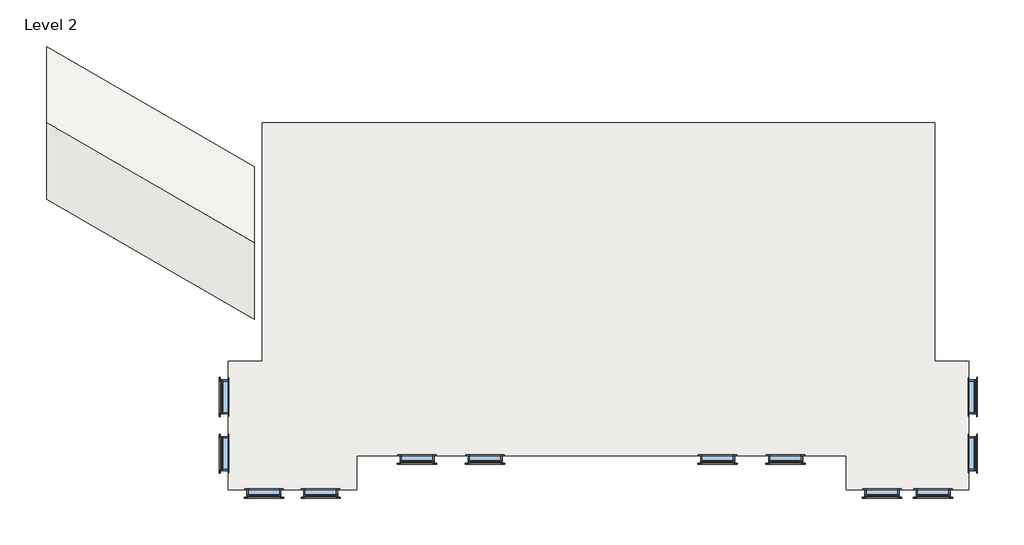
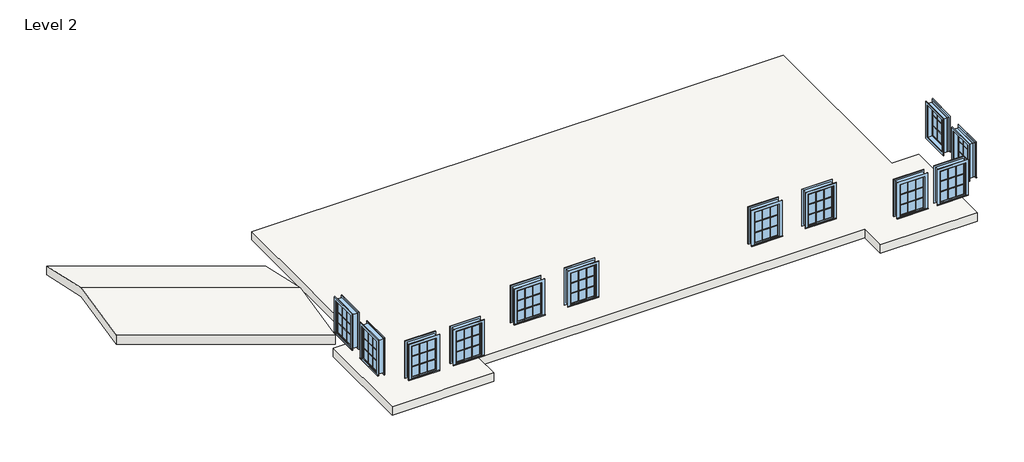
# One storey: 12 windows, 1 roof, 1 slab.
"""IFC4 building model written with IfcOpenShell, lengths in millimetres."""

import ifcopenshell
import ifcopenshell.guid

model = None  # the IFC model being written
_history = None  # IfcOwnerHistory: only IFC2X3 demands one
_inside = {}  # id of a spatial element -> (the spatial element, [elements in it])
_under = {}  # id of a project, library or spatial element -> (it, [spatial elements below it])
_declared = {}  # id of a project -> (the project, [libraries it declares])
_typed = {}  # id of a type object -> (the type object, [elements of that type])
_made_of = {}  # id of a material, layer set ... -> (it, [elements and type objects made of it])


def new_model(schema):
    """Start an empty IFC model of exactly this schema.

    Asked for "IFC4X3", IfcOpenShell would pick the latest addendum, in which some entities
    have other attributes; the version numbers below select the first issue.
    IFC2X3 requires an IfcOwnerHistory on every rooted entity: one is made here for all.
    """
    global model, _history
    if schema == "IFC4X3":
        model = ifcopenshell.file(schema_version=(4, 3, 0, 0))
    else:
        model = ifcopenshell.file(schema=schema)
    _inside.clear()
    _under.clear()
    _declared.clear()
    _typed.clear()
    _made_of.clear()
    _history = None
    if model.schema == "IFC2X3":
        org = make("IfcOrganization", Name="unknown")
        user = make(
            "IfcPersonAndOrganization",
            ThePerson=make("IfcPerson", FamilyName="unknown"),
            TheOrganization=org,
        )
        app = make(
            "IfcApplication",
            ApplicationDeveloper=org,
            Version="unknown",
            ApplicationFullName="unknown",
            ApplicationIdentifier="unknown",
        )
        _history = make(
            "IfcOwnerHistory",
            OwningUser=user,
            OwningApplication=app,
            ChangeAction="ADDED",
            CreationDate=0,
        )
    return model


def make(cls, **values):
    """One entity of the class cls with the attributes given. An attribute that is None is left unset."""
    return model.create_entity(
        cls, **{name: value for name, value in values.items() if value is not None}
    )


def rooted(cls, **values):
    """An entity with a GlobalId (a new one), such as an element, a storey or a relation."""
    return make(cls, GlobalId=ifcopenshell.guid.new(), OwnerHistory=_history, **values)


def si_unit(unit_type, name, prefix=None):
    """IfcSIUnit, for example si_unit("LENGTHUNIT", "METRE", prefix="MILLI")."""
    return make("IfcSIUnit", UnitType=unit_type, Prefix=prefix, Name=name)


def assignment(units):
    """IfcUnitAssignment: the units of a project."""
    return None if units is None else make("IfcUnitAssignment", Units=units)


def point(xyz):
    """IfcCartesianPoint."""
    return None if xyz is None else make("IfcCartesianPoint", Coordinates=xyz)


def direction(xyz):
    """IfcDirection."""
    return None if xyz is None else make("IfcDirection", DirectionRatios=xyz)


def frame(location, z_axis=None, x_axis=None):
    """IfcAxis2Placement3D, a coordinate frame: its origin and axes. An axis left out is left unset."""
    return make(
        "IfcAxis2Placement3D",
        Location=point(location),
        Axis=direction(z_axis),
        RefDirection=direction(x_axis),
    )


def origin():
    """The frame at (0, 0, 0) with its axes left unset."""
    return frame((0.0, 0.0, 0.0))


def place(relative_to, where):
    """IfcLocalPlacement: puts the frame where relative to a parent placement (None: the world)."""
    return make(
        "IfcLocalPlacement", PlacementRelTo=relative_to, RelativePlacement=where
    )


def context(
    kind, dimensions, precision=None, world=None, true_north=None, identifier=None
):
    """IfcGeometricRepresentationContext, for example the 3D "Model" context."""
    return make(
        "IfcGeometricRepresentationContext",
        ContextIdentifier=identifier,
        ContextType=kind,
        CoordinateSpaceDimension=dimensions,
        Precision=precision,
        WorldCoordinateSystem=world,
        TrueNorth=true_north,
    )


def project(units=None, contexts=None):
    """IfcProject with its units and contexts."""
    return rooted(
        "IfcProject",
        Name="project",
        RepresentationContexts=contexts,
        UnitsInContext=assignment(units),
    )


def spatial(cls, under=None, at=None, **own):
    """A site, building, storey or space (cls), placed at a placement, below another one or the project."""
    s = rooted(cls, ObjectPlacement=at, **own)
    if under is not None:
        _under.setdefault(under.id(), (under, []))[1].append(s)
    return s


def polyline(points):
    """IfcPolyline through the points."""
    return make("IfcPolyline", Points=[point(p) for p in points])


def outline(outer, holes=None, kind="AREA"):
    """IfcArbitraryClosedProfileDef: a profile drawn as a closed curve; with holes, ...WithVoids."""
    if holes is None:
        return make("IfcArbitraryClosedProfileDef", ProfileType=kind, OuterCurve=outer)
    return make(
        "IfcArbitraryProfileDefWithVoids",
        ProfileType=kind,
        OuterCurve=outer,
        InnerCurves=holes,
    )


def extrude(swept, where, along, depth):
    """IfcExtrudedAreaSolid: the profile swept, set in the frame where, extruded along a direction by depth."""
    return make(
        "IfcExtrudedAreaSolid",
        SweptArea=swept,
        Position=where,
        ExtrudedDirection=direction(along),
        Depth=depth,
    )


def faces_of(points, faces, orient=None, outer=None):
    """IfcFace entities. A face is a list of loops; a loop is a list of indices into points, from 0.

    orient and outer hold one flag for each loop. By default every Orientation is true, the
    first loop of a face is its IfcFaceOuterBound and the others are IfcFaceBound.
    """
    made = []
    for i, loops in enumerate(faces):
        bounds = []
        for j, loop in enumerate(loops):
            is_outer = j == 0 if outer is None else outer[i][j]
            bounds.append(
                make(
                    "IfcFaceOuterBound" if is_outer else "IfcFaceBound",
                    Bound=make("IfcPolyLoop", Polygon=[points[k] for k in loop]),
                    Orientation=True if orient is None else orient[i][j],
                )
            )
        made.append(make("IfcFace", Bounds=bounds))
    return made


def faceted_brep(points, faces, orient=None, outer=None, voids=None):
    """IfcFacetedBrep: a solid bounded by flat faces; with voids (closed shells), ...WithVoids."""
    shared = [point(p) for p in points]
    hull = make("IfcClosedShell", CfsFaces=faces_of(shared, faces, orient, outer))
    if voids is None:
        return make("IfcFacetedBrep", Outer=hull)
    return make(
        "IfcFacetedBrepWithVoids",
        Outer=hull,
        Voids=[
            make(cls, CfsFaces=faces_of(shared, fs, o, b)) for cls, fs, o, b in voids
        ],
    )


def shape(context_of_items, identifier, shape_type, items):
    """IfcShapeRepresentation: the items that make up one representation, for example the "Body"."""
    return make(
        "IfcShapeRepresentation",
        ContextOfItems=context_of_items,
        RepresentationIdentifier=identifier,
        RepresentationType=shape_type,
        Items=items,
    )


def source(mapping_origin, context_of_items, identifier, shape_type, items):
    """IfcRepresentationMap: a shape defined once, which mapped items show again and again."""
    return make(
        "IfcRepresentationMap",
        MappingOrigin=mapping_origin,
        MappedRepresentation=shape(context_of_items, identifier, shape_type, items),
    )


def transform(
    local_origin,
    x_axis=None,
    y_axis=None,
    z_axis=None,
    scale=None,
    scale2=None,
    scale3=None,
    uniform=True,
):
    """IfcCartesianTransformationOperator3D, or its non-uniform kind. x_axis, y_axis, z_axis: its Axis1, 2, 3."""
    if uniform:
        return make(
            "IfcCartesianTransformationOperator3D",
            Axis1=direction(x_axis),
            Axis2=direction(y_axis),
            LocalOrigin=point(local_origin),
            Scale=scale,
            Axis3=direction(z_axis),
        )
    return make(
        "IfcCartesianTransformationOperator3DnonUniform",
        Axis1=direction(x_axis),
        Axis2=direction(y_axis),
        LocalOrigin=point(local_origin),
        Scale=scale,
        Axis3=direction(z_axis),
        Scale2=scale2,
        Scale3=scale3,
    )


def mapped(mapping_source, mapping_target):
    """IfcMappedItem: shows the shape of a source again, moved by a transform."""
    return make(
        "IfcMappedItem", MappingSource=mapping_source, MappingTarget=mapping_target
    )


def made_of(thing, what):
    """Note that an element or type object is made of a material, layer set ...; save() writes the relation."""
    if what is not None:
        _made_of.setdefault(what.id(), (what, []))[1].append(thing)
    return thing


def element(
    cls,
    number,
    at=None,
    inside=None,
    cuts=None,
    type_object=None,
    material=None,
    context=None,
    identifier="Body",
    shape_type=None,
    held_by="IfcProductDefinitionShape",
    body=None,
    shapes=None,
    **own,
):
    """One element of the class cls, such as IfcWall. Its Tag is "e" and its number.

    at: its placement. inside: the storey or other place that contains it. cuts: it is an
    opening in that element (IfcRelVoidsElement). A single representation is given by context,
    identifier, shape_type and body (its items); several are given by shapes. held_by: the class
    of the entity that holds the representations. save() writes the other relations.
    """
    e = rooted(cls, Tag="e%d" % number, ObjectPlacement=at, **own)
    if body is not None:
        shapes = [shape(context, identifier, shape_type, body)]
    if shapes is not None:
        e.Representation = make(held_by, Representations=shapes)
    if inside is not None:
        _inside.setdefault(inside.id(), (inside, []))[1].append(e)
    if cuts is not None:
        rooted(
            "IfcRelVoidsElement", RelatingBuildingElement=cuts, RelatedOpeningElement=e
        )
    if type_object is not None:
        _typed.setdefault(type_object.id(), (type_object, []))[1].append(e)
    return made_of(e, material)


def aggregate(whole, parts):
    """IfcRelAggregates: a whole, such as a stair, and the parts it consists of."""
    return rooted("IfcRelAggregates", RelatingObject=whole, RelatedObjects=parts)


def save(model, path):
    """Write the relations noted so far, then the file.

    IfcRelAggregates (storeys below a building ...), IfcRelContainedInSpatialStructure (elements
    in a storey), IfcRelDefinesByType, IfcRelAssociatesMaterial and IfcRelDeclares: one each for
    every whole, place, type object, material and project.
    """
    for whole, parts in _under.values():
        aggregate(whole, parts)
    for where, things in _inside.values():
        rooted(
            "IfcRelContainedInSpatialStructure",
            RelatedElements=things,
            RelatingStructure=where,
        )
    for kind, things in _typed.values():
        rooted("IfcRelDefinesByType", RelatedObjects=things, RelatingType=kind)
    for what, things in _made_of.values():
        rooted("IfcRelAssociatesMaterial", RelatedObjects=things, RelatingMaterial=what)
    for by, libraries in _declared.values():
        rooted("IfcRelDeclares", RelatingContext=by, RelatedDefinitions=libraries)
    model.write(path)


def casement_3x3_with_trim_29c06734(model_context):
    return source(origin(), model_context, "Body", "SweptSolid", [
        extrude(outline(polyline([(-527.05, 127.0), (527.05, 127.0), (527.05, 101.6), (-527.05, 101.6), (-527.05, 127.0)])), frame((0.0, 0.0, 914.4), z_axis=(0.0, 0.0, 1.0), x_axis=(1.0, 0.0, 0.0)), (0.0, 0.0, 1.0), 19.05),
        extrude(outline(polyline([(2114.55, -438.15), (2114.55, 438.15), (933.45, 438.15), (933.45, 527.05), (2203.45, 527.05), (2203.45, -527.05), (933.45, -527.05), (933.45, -438.15), (2114.55, -438.15)])), frame((0.0, 101.6, 0.0), z_axis=(0.0, 1.0, 0.0), x_axis=(0.0, 0.0, 1.0)), (0.0, 0.0, 1.0), 12.7),
        extrude(outline(polyline([(143.9333333, 66.675), (393.7, 66.675), (393.7, 53.975), (143.9333333, 53.975), (143.9333333, 66.675)])), frame((0.0, 0.0, 1718.7333333), z_axis=(0.0, 0.0, 1.0), x_axis=(1.0, 0.0, 0.0)), (0.0, 0.0, 1.0), 351.3666667),
        extrude(outline(polyline([(-124.8833333, 66.675), (124.8833333, 66.675), (124.8833333, 53.975), (-124.8833333, 53.975), (-124.8833333, 66.675)])), frame((0.0, 0.0, 1718.7333333), z_axis=(0.0, 0.0, 1.0), x_axis=(1.0, 0.0, 0.0)), (0.0, 0.0, 1.0), 351.3666667),
        extrude(outline(polyline([(-393.7, 66.675), (-143.9333333, 66.675), (-143.9333333, 53.975), (-393.7, 53.975), (-393.7, 66.675)])), frame((0.0, 0.0, 1718.7333333), z_axis=(0.0, 0.0, 1.0), x_axis=(1.0, 0.0, 0.0)), (0.0, 0.0, 1.0), 351.3666667),
        extrude(outline(polyline([(-393.7, 66.675), (-143.9333333, 66.675), (-143.9333333, 53.975), (-393.7, 53.975), (-393.7, 66.675)])), frame((0.0, 0.0, 1348.3166667), z_axis=(0.0, 0.0, 1.0), x_axis=(1.0, 0.0, 0.0)), (0.0, 0.0, 1.0), 351.3666667),
        extrude(outline(polyline([(-124.8833333, 66.675), (124.8833333, 66.675), (124.8833333, 53.975), (-124.8833333, 53.975), (-124.8833333, 66.675)])), frame((0.0, 0.0, 1348.3166667), z_axis=(0.0, 0.0, 1.0), x_axis=(1.0, 0.0, 0.0)), (0.0, 0.0, 1.0), 351.3666667),
        extrude(outline(polyline([(143.9333333, 66.675), (393.7, 66.675), (393.7, 53.975), (143.9333333, 53.975), (143.9333333, 66.675)])), frame((0.0, 0.0, 1348.3166667), z_axis=(0.0, 0.0, 1.0), x_axis=(1.0, 0.0, 0.0)), (0.0, 0.0, 1.0), 351.3666667),
        extrude(outline(polyline([(143.9333333, 66.675), (393.7, 66.675), (393.7, 53.975), (143.9333333, 53.975), (143.9333333, 66.675)])), frame((0.0, 0.0, 977.9), z_axis=(0.0, 0.0, 1.0), x_axis=(1.0, 0.0, 0.0)), (0.0, 0.0, 1.0), 351.3666667),
        extrude(outline(polyline([(-124.8833333, 66.675), (124.8833333, 66.675), (124.8833333, 53.975), (-124.8833333, 53.975), (-124.8833333, 66.675)])), frame((0.0, 0.0, 977.9), z_axis=(0.0, 0.0, 1.0), x_axis=(1.0, 0.0, 0.0)), (0.0, 0.0, 1.0), 351.3666667),
        extrude(outline(polyline([(-393.7, 66.675), (-143.9333333, 66.675), (-143.9333333, 53.975), (-393.7, 53.975), (-393.7, 66.675)])), frame((0.0, 0.0, 977.9), z_axis=(0.0, 0.0, 1.0), x_axis=(1.0, 0.0, 0.0)), (0.0, 0.0, 1.0), 351.3666667),
        extrude(outline(polyline([(2190.75, 514.35), (2190.75, -514.35), (857.25, -514.35), (857.25, 514.35), (2190.75, 514.35)]), holes=[polyline([(2101.85, 425.45), (946.15, 425.45), (946.15, -425.45), (2101.85, -425.45), (2101.85, 425.45)])]), frame((0.0, -120.65, 0.0), z_axis=(0.0, 1.0, 0.0), x_axis=(0.0, 0.0, 1.0)), (0.0, 0.0, 1.0), 19.05),
        extrude(outline(polyline([(2114.55, -438.15), (933.45, -438.15), (933.45, 438.15), (2114.55, 438.15), (2114.55, -438.15)]), holes=[polyline([(2070.1, -143.9333333), (1718.7333333, -143.9333333), (1718.7333333, -393.7), (2070.1, -393.7), (2070.1, -143.9333333)]), polyline([(1699.6833333, -143.9333333), (1348.3166667, -143.9333333), (1348.3166667, -393.7), (1699.6833333, -393.7), (1699.6833333, -143.9333333)]), polyline([(1329.2666667, -143.9333333), (977.9, -143.9333333), (977.9, -393.7), (1329.2666667, -393.7), (1329.2666667, -143.9333333)]), polyline([(2070.1, 124.8833333), (1718.7333333, 124.8833333), (1718.7333333, -124.8833333), (2070.1, -124.8833333), (2070.1, 124.8833333)]), polyline([(1699.6833333, 124.8833333), (1348.3166667, 124.8833333), (1348.3166667, -124.8833333), (1699.6833333, -124.8833333), (1699.6833333, 124.8833333)]), polyline([(1329.2666667, 124.8833333), (977.9, 124.8833333), (977.9, -124.8833333), (1329.2666667, -124.8833333), (1329.2666667, 124.8833333)]), polyline([(2070.1, 393.7), (1718.7333333, 393.7), (1718.7333333, 143.9333333), (2070.1, 143.9333333), (2070.1, 393.7)]), polyline([(1699.6833333, 393.7), (1348.3166667, 393.7), (1348.3166667, 143.9333333), (1699.6833333, 143.9333333), (1699.6833333, 393.7)]), polyline([(1329.2666667, 393.7), (977.9, 393.7), (977.9, 143.9333333), (1329.2666667, 143.9333333), (1329.2666667, 393.7)])]), frame((0.0, 38.1, 0.0), z_axis=(0.0, 1.0, 0.0), x_axis=(0.0, 0.0, 1.0)), (0.0, 0.0, 1.0), 44.45),
        extrude(outline(polyline([(2133.6, -457.2), (914.4, -457.2), (914.4, 457.2), (2133.6, 457.2), (2133.6, -457.2)]), holes=[polyline([(2101.85, -425.45), (2101.85, 425.45), (946.15, 425.45), (946.15, -425.45), (2101.85, -425.45)])]), frame((0.0, -101.6, 0.0), z_axis=(0.0, 1.0, 0.0), x_axis=(0.0, 0.0, 1.0)), (0.0, 0.0, 1.0), 139.7),
        extrude(outline(polyline([(2133.6, 457.2), (2133.6, -457.2), (914.4, -457.2), (914.4, 457.2), (2133.6, 457.2)]), holes=[polyline([(2114.55, 438.15), (933.45, 438.15), (933.45, -438.15), (2114.55, -438.15), (2114.55, 438.15)])]), frame((0.0, 38.1, 0.0), z_axis=(0.0, 1.0, 0.0), x_axis=(0.0, 0.0, 1.0)), (0.0, 0.0, 1.0), 63.5),
    ])


model = new_model("IFC4")

# Units and contexts
model_context = context("Model", 3, world=origin())
ifc_project = project(units=[si_unit("LENGTHUNIT", "METRE", prefix="MILLI")], contexts=[model_context])

# Site, building, storey
site = spatial("IfcSite", under=ifc_project)
building = spatial("IfcBuilding", under=site)
storey = spatial("IfcBuildingStorey", under=building, Name="Level 2", Elevation=3505.2)

# Roof
placement = place(None, origin())
element("IfcRoof", 1, ObjectType="Generic - 12\"", at=placement, inside=storey, context=model_context, shape_type="Brep", body=[
    faceted_brep([(-176487.3354666, 12797.5236302, 3505.2), (-176487.3354666, 14850.5811875, 3048.0), (-182075.3354666, 18076.8144917, 3048.0), (-182075.3354666, 16023.7569345, 3505.2), (-176487.3354666, 10744.466073, 3048.0), (-182075.3354666, 13970.6993772, 3048.0), (-176487.3354666, 10744.466073, 2733.284229), (-182075.3354666, 13970.6993772, 2733.284229), (-176487.3354666, 12797.5236302, 3190.484229), (-182075.3354666, 16023.7569345, 3190.484229), (-176487.3354666, 14850.5811875, 2733.284229), (-182075.3354666, 18076.8144917, 2733.284229)], [[[0, 1, 2, 3]], [[4, 0, 3, 5]], [[6, 4, 5, 7]], [[8, 6, 7, 9]], [[10, 8, 9, 11]], [[1, 10, 11, 2]], [[2, 11, 9, 7, 5, 3]], [[1, 0, 4, 6, 8, 10]]]),
])

# Slab
element("IfcSlab", 2, ObjectType="Generic - 12\"", at=placement, inside=storey, context=model_context, shape_type="SweptSolid", body=[
    extrude(outline(polyline([(-177198.5354666, 9625.4757393), (-176284.1354666, 9625.4757393), (-176284.1354666, 16026.2757393), (-158199.3354666, 16026.2757393), (-158199.3354666, 9625.4757393), (-157284.9354666, 9625.4757393), (-157284.9354666, 6171.0757393), (-160586.9354666, 6171.0757393), (-160586.9354666, 7085.4757393), (-173744.1354666, 7085.4757393), (-173744.1354666, 6171.0757393), (-177198.5354666, 6171.0757393), (-177198.5354666, 9625.4757393)])), frame((0.0, 0.0, 3200.4), z_axis=(0.0, 0.0, 1.0), x_axis=(1.0, 0.0, 0.0)), (0.0, 0.0, 1.0), 304.8),
])

# Windows
casement_3x3_with_trim_shape = casement_3x3_with_trim_29c06734(model_context)
element("IfcWindow", 3, ObjectType="Casement 3x3 with Trim : 36\"w x 48\"h", at=placement, inside=storey, context=model_context, shape_type="MappedRepresentation", body=[
    mapped(casement_3x3_with_trim_shape, transform((-176233.3354666, 6069.4757393, 3505.2), x_axis=(-1.0, 0.0, 0.0), y_axis=(0.0, -1.0, 0.0), z_axis=(0.0, 0.0, 1.0))),
])
element("IfcWindow", 4, ObjectType="Casement 3x3 with Trim : 36\"w x 48\"h", at=placement, inside=storey, context=model_context, shape_type="MappedRepresentation", body=[
    mapped(casement_3x3_with_trim_shape, transform((-174709.3354666, 6069.4757393, 3505.2), x_axis=(-1.0, 0.0, 0.0), y_axis=(0.0, -1.0, 0.0), z_axis=(0.0, 0.0, 1.0))),
])
element("IfcWindow", 5, ObjectType="Casement 3x3 with Trim : 36\"w x 48\"h", at=placement, inside=storey, context=model_context, shape_type="MappedRepresentation", body=[
    mapped(casement_3x3_with_trim_shape, transform((-172118.5354666, 6983.8757393, 3505.2), x_axis=(-1.0, 0.0, 0.0), y_axis=(0.0, -1.0, 0.0), z_axis=(0.0, 0.0, 1.0))),
])
element("IfcWindow", 6, ObjectType="Casement 3x3 with Trim : 36\"w x 48\"h", at=placement, inside=storey, context=model_context, shape_type="MappedRepresentation", body=[
    mapped(casement_3x3_with_trim_shape, transform((-170289.7354666, 6983.8757393, 3505.2), x_axis=(-1.0, 0.0, 0.0), y_axis=(0.0, -1.0, 0.0), z_axis=(0.0, 0.0, 1.0))),
])
element("IfcWindow", 7, ObjectType="Casement 3x3 with Trim : 36\"w x 48\"h", at=placement, inside=storey, context=model_context, shape_type="MappedRepresentation", body=[
    mapped(casement_3x3_with_trim_shape, transform((-164041.3354666, 6983.8757393, 3505.2), x_axis=(-1.0, 0.0, 0.0), y_axis=(0.0, -1.0, 0.0), z_axis=(0.0, 0.0, 1.0))),
])
element("IfcWindow", 8, ObjectType="Casement 3x3 with Trim : 36\"w x 48\"h", at=placement, inside=storey, context=model_context, shape_type="MappedRepresentation", body=[
    mapped(casement_3x3_with_trim_shape, transform((-162212.5354666, 6983.8757393, 3505.2), x_axis=(-1.0, 0.0, 0.0), y_axis=(0.0, -1.0, 0.0), z_axis=(0.0, 0.0, 1.0))),
])
element("IfcWindow", 9, ObjectType="Casement 3x3 with Trim : 36\"w x 48\"h", at=placement, inside=storey, context=model_context, shape_type="MappedRepresentation", body=[
    mapped(casement_3x3_with_trim_shape, transform((-159621.7354666, 6069.4757393, 3505.2), x_axis=(-1.0, 0.0, 0.0), y_axis=(0.0, -1.0, 0.0), z_axis=(0.0, 0.0, 1.0))),
])
element("IfcWindow", 10, ObjectType="Casement 3x3 with Trim : 36\"w x 48\"h", at=placement, inside=storey, context=model_context, shape_type="MappedRepresentation", body=[
    mapped(casement_3x3_with_trim_shape, transform((-158250.1354666, 6069.4757393, 3505.2), x_axis=(-1.0, 0.0, 0.0), y_axis=(0.0, -1.0, 0.0), z_axis=(0.0, 0.0, 1.0))),
])
element("IfcWindow", 11, ObjectType="Casement 3x3 with Trim : 36\"w x 48\"h", at=placement, inside=storey, context=model_context, shape_type="MappedRepresentation", body=[
    mapped(casement_3x3_with_trim_shape, transform((-157183.3354666, 7136.2757393, 3505.2), x_axis=(0.0, -1.0, 0.0), y_axis=(1.0, 0.0, 0.0), z_axis=(0.0, 0.0, 1.0))),
])
element("IfcWindow", 12, ObjectType="Casement 3x3 with Trim : 36\"w x 48\"h", at=placement, inside=storey, context=model_context, shape_type="MappedRepresentation", body=[
    mapped(casement_3x3_with_trim_shape, transform((-157183.3354666, 8660.2757393, 3505.2), x_axis=(0.0, -1.0, 0.0), y_axis=(1.0, 0.0, 0.0), z_axis=(0.0, 0.0, 1.0))),
])
element("IfcWindow", 13, ObjectType="Casement 3x3 with Trim : 36\"w x 48\"h", at=placement, inside=storey, context=model_context, shape_type="MappedRepresentation", body=[
    mapped(casement_3x3_with_trim_shape, transform((-177300.1354666, 7136.2757393, 3505.2), x_axis=(0.0, 1.0, 0.0), y_axis=(-1.0, 0.0, 0.0), z_axis=(0.0, 0.0, 1.0))),
])
element("IfcWindow", 14, ObjectType="Casement 3x3 with Trim : 36\"w x 48\"h", at=placement, inside=storey, context=model_context, shape_type="MappedRepresentation", body=[
    mapped(casement_3x3_with_trim_shape, transform((-177300.1354666, 8660.2757393, 3505.2), x_axis=(0.0, 1.0, 0.0), y_axis=(-1.0, 0.0, 0.0), z_axis=(0.0, 0.0, 1.0))),
])

save(model, "model.ifc")
